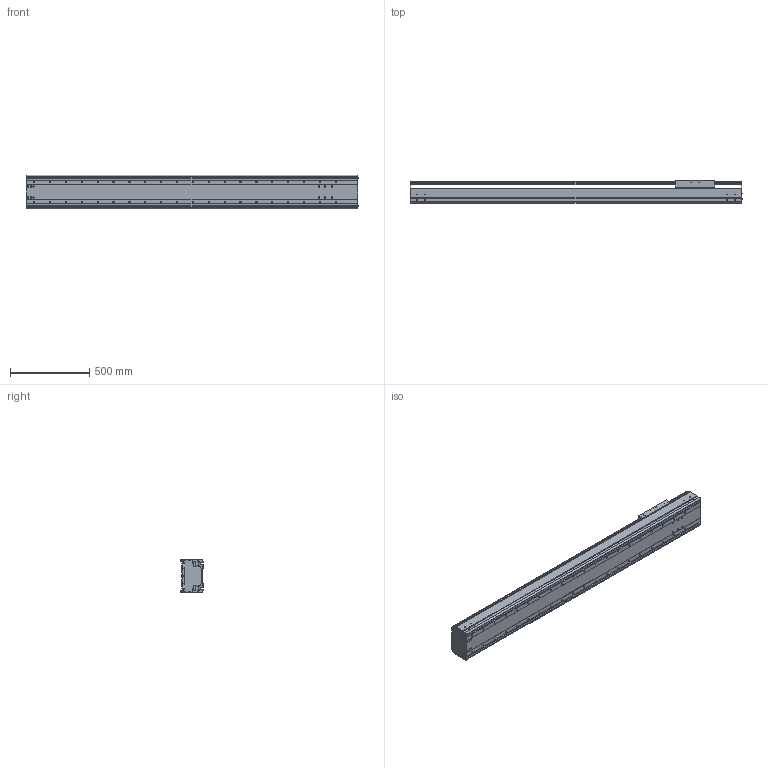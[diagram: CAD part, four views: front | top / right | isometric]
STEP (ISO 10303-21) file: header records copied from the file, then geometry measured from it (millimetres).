
FILE_DESCRIPTION((''),'2;1');
FILE_NAME('BE60J-ST-M_N-G0_IGS_PRT','2017-06-18T',(' '),(''),'PRO/ENGINEER BY PARAMETRIC TECHNOLOGY CORPORATION, 2015030','PRO/ENGINEER BY PARAMETRIC TECHNOLOGY CORPORATION, 2015030','');
FILE_SCHEMA(('CONFIG_CONTROL_DESIGN'));
Length unit declared in the file: millimetre
Products named in the file (1): BE60J-ST-M_N-G0_IGS_PRT
Bounding box: 2092.4 x 140 x 214 mm (x, y, z)
Volume: 15751901.5 mm3; surface area: 4319832.1 mm2
Topology: 2 solids, 134 shells, 1573 faces, 4462 edges, 2994 vertices
Faces by surface type: cylinder 842, plane 631, cone 52, sphere 24, torus 24
Entity records: 53565 total; most frequent: CARTESIAN_POINT 12212, DIRECTION 8578, ORIENTED_EDGE 8308, EDGE_CURVE 4414, AXIS2_PLACEMENT_3D 3218, VERTEX_POINT 2994, VECTOR 2142, LINE 2142
